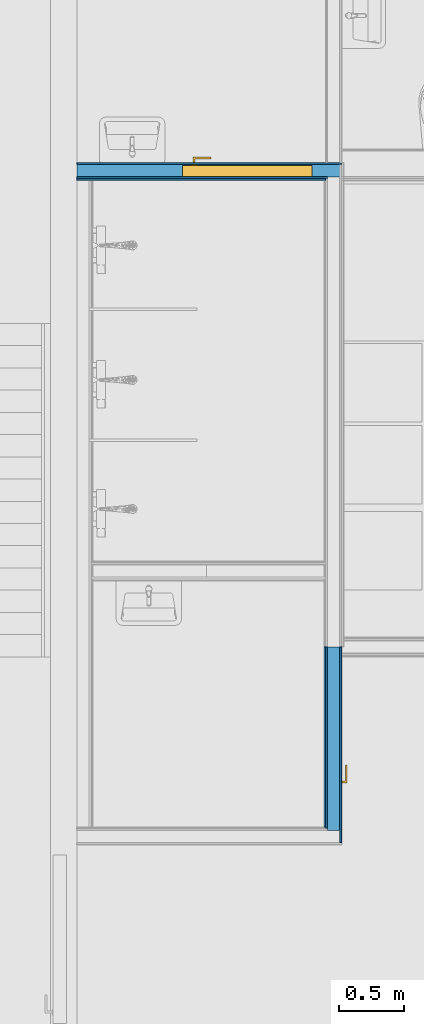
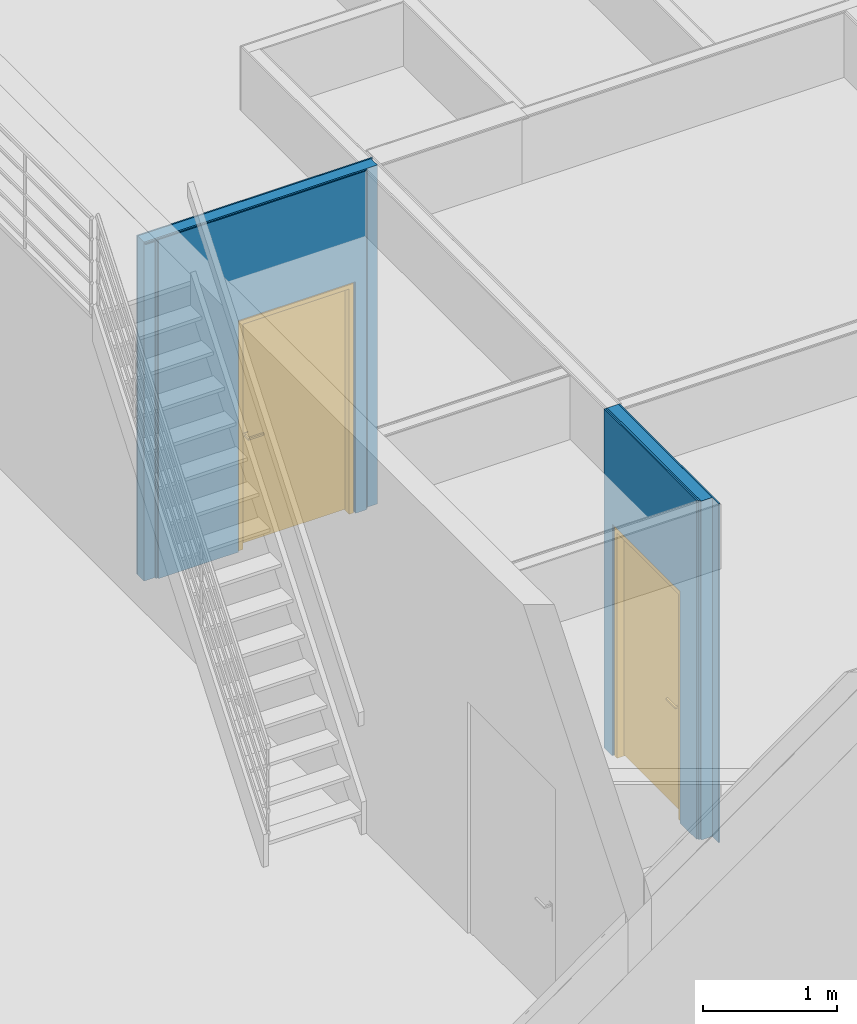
# One storey, part 20 of 67: 8 building element parts, 2 doors, 2 openings, 2 elements without a shape of their own.
"""IFC4 building model written with IfcOpenShell, lengths in millimetres."""

from ifc_helpers import new_model, entity, si_unit, converted_unit, direction, frame, origin, place, context, subcontext, project, spatial, indexed_curve, outline, extrude, polygons, source, transform, mapped, material, constituent, constituent_set, type_object, type_shapes, element, fill, aggregate, save


model = new_model("IFC4")

# Units and contexts
model_context = context("Model", 3, precision=0.01, world=origin(), true_north=direction((0.0, 1.0)))
body_context = subcontext(model_context, "Body", "Model", "MODEL_VIEW")
ifc_project = project(units=[si_unit("LENGTHUNIT", "METRE", prefix="MILLI"), si_unit("AREAUNIT", "SQUARE_METRE"), si_unit("VOLUMEUNIT", "CUBIC_METRE"), converted_unit("PLANEANGLEUNIT", "DEGREE", entity("IfcPlaneAngleMeasure", 0.017453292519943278), si_unit("PLANEANGLEUNIT", "RADIAN"), dimensions=[0, 0, 0, 0, 0, 0, 0])], contexts=[model_context])

# Site, building, storey
site_placement = place(None, origin())
site = spatial("IfcSite", under=ifc_project, at=site_placement, Name="Tomtens navn", CompositionType="ELEMENT")
building_placement = place(site_placement, origin())
building = spatial("IfcBuilding", under=site, at=building_placement, Name="Byggets navn", CompositionType="ELEMENT")
storey_placement = place(building_placement, origin())
storey = spatial("IfcBuildingStorey", under=building, at=storey_placement, Name="Level 01", CompositionType="ELEMENT", Elevation=2.1993652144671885e-25)

# Door
ifc_material_1 = material(Name="Rustfritt Stål", Category="Metal")
ifc_constituent_1 = constituent(ifc_material_1, Name="Rustfritt Stål", Category="Metal", fraction=0.0018055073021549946)
ifc_material_2 = material(Name="Hvit", Category="Paint")
ifc_constituent_2 = constituent(ifc_material_2, Name="Hvit", Category="Paint", fraction=0.998194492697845)
ifc_constituent_set_1 = constituent_set(constituents=[ifc_constituent_1, ifc_constituent_2])
ifc_constituent_3 = constituent(ifc_material_1, Name="Rustfritt Stål", Category="Metal", fraction=0.0009035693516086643)
ifc_constituent_4 = constituent(ifc_material_2, Name="Panel", Category="Paint", fraction=0.4995482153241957)
ifc_constituent_5 = constituent(ifc_material_2, Name="Frame/Mullion", Category="Paint", fraction=0.4995482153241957)
ifc_constituent_set_2 = constituent_set(constituents=[ifc_constituent_3, ifc_constituent_4, ifc_constituent_5])
door_type_1 = type_object("IfcDoorType", Name="Enfløyet:ID05 Komposittdør 10x21M", OperationType="SINGLE_SWING_RIGHT", PredefinedType="DOOR", material=ifc_constituent_set_2)
shared_shape_1 = source(origin(), body_context, "Body", "SweptSolid", [
    extrude(outline(indexed_curve([(-50.83333333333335, -33.33333333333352), (-35.83333333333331, -33.333333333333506), (-35.83333333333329, 9.166666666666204), (86.66666666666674, 9.166666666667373), (86.66666666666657, 24.16666666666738), (-50.8333333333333, 24.166666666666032), (-50.83333333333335, -33.33333333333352)], self_intersect=False)), frame((141.33333333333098, 152.94103942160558, 980.5000000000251)), (0.0, 0.0, 1.0), 14.999999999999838),
    extrude(outline(indexed_curve([(-24.999999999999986, -2.7999999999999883), (25.000000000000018, -2.8000000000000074), (24.999999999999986, 2.7999999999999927), (-24.99999999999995, 2.800000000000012), (-24.999999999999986, -2.7999999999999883)], self_intersect=False)), frame((98.0, 116.80000000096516, 850.9862950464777), z_axis=(0.0, 0.0, 1.0), x_axis=(-1.0, 0.0, 0.0)), (0.0, 0.0, 1.0), 159.01370495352),
    extrude(outline(indexed_curve([(-33.33333333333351, -50.83333333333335), (24.166666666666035, -50.83333333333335), (24.166666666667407, 86.66666666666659), (9.166666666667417, 86.6666666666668), (9.16666666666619, -35.83333333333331), (-33.33333333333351, -35.83333333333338), (-33.33333333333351, -50.83333333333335)], self_intersect=False)), frame((141.33333333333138, 35.058960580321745, 980.5000000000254), z_axis=(0.0, 0.0, 1.0), x_axis=(0.0, -1.0, 0.0)), (0.0, 0.0, 1.0), 14.999999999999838),
    extrude(outline(indexed_curve([(-2.8000000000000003, -25.00000000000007), (2.7999999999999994, -25.00000000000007), (2.800000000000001, 25.0), (-2.8000000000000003, 24.999999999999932), (-2.8000000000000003, -25.00000000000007)], self_intersect=False)), frame((98.0, 71.20000000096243, 850.9862950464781), z_axis=(0.0, 0.0, 1.0), x_axis=(0.0, 1.0, 0.0)), (0.0, 0.0, 1.0), 159.01370495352),
    extrude(outline(indexed_curve([(-20.0, -456.9999999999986), (20.0, -456.9999999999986), (20.0, 456.9999999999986), (-20.0, 456.9999999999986), (-20.0, -456.9999999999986)], self_intersect=False)), frame((505.0, 94.0, 10.0), z_axis=(0.0, 0.0, 1.0), x_axis=(0.0, 1.0, 0.0)), (0.0, 0.0, 1.0), 2042.0),
    extrude(outline(indexed_curve([(-1035.4999999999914, -494.9999999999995), (1054.4999999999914, -494.99999999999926), (1054.4999999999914, 494.99999999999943), (-1035.4999999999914, 494.99999999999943), (-1035.4999999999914, 456.99999999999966), (1016.4999999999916, 456.9999999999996), (1016.4999999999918, -456.9999999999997), (-1035.4999999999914, -456.99999999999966), (-1035.4999999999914, -494.9999999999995)], self_intersect=False)), frame((505.0, 14.0, 1035.4999999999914), z_axis=(0.0, 1.0, 0.0), x_axis=(0.0, 0.0, 1.0)), (0.0, 0.0, 1.0), 99.99999999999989),
])
type_shapes(door_type_1, [shared_shape_1])
wall_1_placement = place(storey_placement, frame((60662.853528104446, 15672.966456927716, 0.0), z_axis=(0.0, 0.0, 1.0), x_axis=(-1.0, 0.0, 0.0)))
opening_1_placement = place(wall_1_placement, frame((1240.0, 67.0, 0.0)))
door_1_placement = place(opening_1_placement, frame((0.0, 0.0, 0.0), z_axis=(0.0, 0.0, 1.0), x_axis=(-1.0, 0.0, 0.0)))
door_1 = element("IfcDoor", 1, at=door_1_placement, inside=storey, type_object=door_type_1, material=ifc_constituent_set_1, Name="Enfløyet:ID05 Komposittdør 10x21M", OverallHeight=2110.000000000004, OverallWidth=1009.9999999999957, PredefinedType="DOOR", context=body_context, shape_type="MappedRepresentation", body=[
    mapped(shared_shape_1, transform((0.0, 0.0, 0.0), scale=1.0)),
])

ifc_constituent_6 = constituent(ifc_material_1, Name="Rustfritt Stål", Category="Metal", fraction=0.0018055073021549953)
ifc_constituent_7 = constituent(ifc_material_2, Name="Hvit", Category="Paint", fraction=0.998194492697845)
ifc_constituent_set_3 = constituent_set(constituents=[ifc_constituent_6, ifc_constituent_7])
ifc_constituent_8 = constituent(ifc_material_1, Name="Rustfritt Stål", Category="Metal", fraction=0.0009035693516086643)
ifc_constituent_9 = constituent(ifc_material_2, Name="Panel", Category="Paint", fraction=0.4995482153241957)
ifc_constituent_10 = constituent(ifc_material_2, Name="Frame/Mullion", Category="Paint", fraction=0.4995482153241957)
ifc_constituent_set_4 = constituent_set(constituents=[ifc_constituent_8, ifc_constituent_9, ifc_constituent_10])
door_type_2 = type_object("IfcDoorType", Name="Enfløyet:ID06 Tredør 10x21M", OperationType="SINGLE_SWING_LEFT", PredefinedType="DOOR", material=ifc_constituent_set_4)
shared_shape_2 = source(origin(), body_context, "Body", "SweptSolid", [
    extrude(outline(indexed_curve([(-33.33333333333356, -50.833333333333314), (24.16666666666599, -50.833333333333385), (24.16666666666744, 86.66666666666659), (9.166666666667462, 86.6666666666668), (9.166666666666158, -35.83333333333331), (-33.33333333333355, -35.83333333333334), (-33.33333333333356, -50.833333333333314)], self_intersect=False)), frame((868.6666666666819, 132.94103942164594, 980.5000000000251), z_axis=(0.0, 0.0, 1.0), x_axis=(0.0, 1.0, 0.0)), (0.0, 0.0, 1.0), 14.999999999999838),
    extrude(outline(indexed_curve([(-2.8000000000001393, -25.000000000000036), (2.799999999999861, -25.000000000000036), (2.8000000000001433, 25.000000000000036), (-2.799999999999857, 24.999999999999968), (-2.8000000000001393, -25.000000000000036)], self_intersect=False)), frame((912.0, 96.8000000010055, 850.9862950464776), z_axis=(0.0, 0.0, 1.0), x_axis=(0.0, -1.0, 0.0)), (0.0, 0.0, 1.0), 159.01370495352),
    extrude(outline(indexed_curve([(-50.83333333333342, -33.33333333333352), (-35.83333333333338, -33.33333333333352), (-35.83333333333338, 9.16666666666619), (86.66666666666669, 9.1666666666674), (86.66666666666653, 24.1666666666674), (-50.83333333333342, 24.16666666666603), (-50.83333333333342, -33.33333333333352)], self_intersect=False)), frame((868.6666666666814, 15.0589605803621, 980.5000000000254), z_axis=(0.0, 0.0, 1.0), x_axis=(-1.0, 0.0, 0.0)), (0.0, 0.0, 1.0), 14.999999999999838),
    extrude(outline(indexed_curve([(-25.0, -2.8000000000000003), (25.0, -2.8000000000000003), (24.999999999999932, 2.7999999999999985), (-25.0, 2.8000000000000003), (-25.0, -2.8000000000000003)], self_intersect=False)), frame((912.0, 51.200000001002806, 850.9862950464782)), (0.0, 0.0, 1.0), 159.01370495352),
    extrude(outline(indexed_curve([(-456.9999999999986, -20.0), (456.9999999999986, -20.0), (456.9999999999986, 20.0), (-456.9999999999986, 20.0), (-456.9999999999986, -20.0)], self_intersect=False)), frame((505.0, 74.00000000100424, 10.0)), (0.0, 0.0, 1.0), 2042.0),
    extrude(outline(indexed_curve([(456.9999999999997, -1035.4999999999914), (494.99999999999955, -1035.4999999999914), (494.99999999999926, 1054.4999999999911), (-494.99999999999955, 1054.4999999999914), (-494.99999999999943, -1035.4999999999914), (-456.99999999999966, -1035.4999999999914), (-456.9999999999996, 1016.4999999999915), (456.9999999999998, 1016.4999999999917), (456.9999999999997, -1035.4999999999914)], self_intersect=False)), frame((505.0, 94.00000000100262, 1035.4999999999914), z_axis=(0.0, -1.0, 0.0), x_axis=(1.0, 0.0, 0.0)), (0.0, 0.0, 1.0), 99.99999999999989),
])
type_shapes(door_type_2, [shared_shape_2])
wall_2_placement = place(storey_placement, frame((60580.85352810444, 12037.216456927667, 0.0), z_axis=(0.0, 0.0, 1.0), x_axis=(0.0, -1.0, 0.0)))
opening_2_placement = place(wall_2_placement, frame((119.74999999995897, -67.0, 0.0)))
door_2_placement = place(opening_2_placement, frame((0.0, 20.0, 0.0)))
door_2 = element("IfcDoor", 2, at=door_2_placement, inside=storey, type_object=door_type_2, material=ifc_constituent_set_3, Name="Enfløyet:ID06 Tredør 10x21M", OverallHeight=2110.000000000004, OverallWidth=1009.9999999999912, PredefinedType="DOOR", context=body_context, shape_type="MappedRepresentation", body=[
    mapped(shared_shape_2, transform((0.0, 0.0, 0.0), scale=1.0)),
])

# Wall, opening
wall_type_1 = type_object("IfcWallType", Name="Basic Wall:IV07 Gips 95 stålstender +15mm kryssfiner+baderomsplater", PredefinedType="STANDARD")
wall_1 = element("IfcWall", 3, at=wall_1_placement, inside=storey, type_object=wall_type_1, Name="Basic Wall:IV07 Gips 95 stålstender +15mm kryssfiner+baderomsplater", PredefinedType="NOTDEFINED")
opening_1 = element("IfcOpeningElement", 4, at=opening_1_placement, cuts=wall_1, Name="Enfløyet:ID05 Komposittdør 10x21M:1", PredefinedType="OPENING", context=body_context, shape_type="SweptSolid", body=[
    extrude(outline(indexed_curve([(0.0, 1009.9999999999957), (0.0, 2.3165105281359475e-29), (2110.000000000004, 2.3165105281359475e-29), (2110.000000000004, 1009.9999999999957), (0.0, 1009.9999999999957)], self_intersect=False)), frame((0.0, 0.0, 0.0), z_axis=(0.0, -1.0, 0.0), x_axis=(0.0, 0.0, 1.0)), (0.0, 0.0, 1.0), 134.0),
])

fill(opening_1, door_1)

# Building element part
ifc_material_3 = material(Name="NO_Kryssfiner", Category="Tre")
building_element_part_1_placement = place(wall_1_placement, frame((2040.0, 56.0, 0.0)))
building_element_part_1 = element("IfcBuildingElementPart", 5, at=building_element_part_1_placement, material=ifc_material_3, Name="NO_Kryssfiner", context=body_context, shape_type="Tessellation", body=[
    polygons([(-800.0000000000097, 3.637978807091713e-12, 7.331217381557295e-26), (-800.0000000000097, 3.637978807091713e-12, 2110.000000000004), (-1809.999999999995, 3.637978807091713e-12, 2110.000000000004), (-1809.999999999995, 3.637978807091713e-12, 7.331217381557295e-26), (-1917.0000000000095, 3.637978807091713e-12, 7.331217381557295e-26), (-1917.0000000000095, 3.637978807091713e-12, 3087.999999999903), (-9.65166665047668e-12, 3.637978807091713e-12, 3087.999999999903), (-9.65166665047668e-12, 3.637978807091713e-12, 3081.346137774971), (-95.00000000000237, 3.637978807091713e-12, 3081.346137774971), (-95.00000000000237, 3.637978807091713e-12, 7.331217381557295e-26), (-1809.999999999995, -15.0, 7.331217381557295e-26), (-1917.0000000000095, -15.0, 7.331217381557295e-26), (-9.653948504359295e-12, -15.0, 3087.999999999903), (-9.653948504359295e-12, -15.0, 3081.346137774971), (-1917.0000000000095, -15.0, 3087.999999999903), (-1809.999999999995, -15.0, 2110.000000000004), (-800.0000000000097, -15.0, 2110.000000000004), (-800.0000000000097, -15.0, 7.331217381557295e-26), (-95.00000000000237, -15.0, -2.8199664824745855e-15), (-95.00000000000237, -15.0, 3081.346137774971)], [[[1, 2, 3, 4, 5, 6, 7, 8, 9, 10]], [[5, 4, 11, 12]], [[7, 13, 14, 8]], [[7, 6, 15, 13]], [[4, 3, 16, 11]], [[3, 2, 17, 16]], [[2, 1, 18, 17]], [[18, 1, 10, 19]], [[12, 11, 16, 17, 18, 19, 20, 14, 13, 15]], [[5, 12, 15, 6]], [[20, 9, 8, 14]], [[9, 20, 19, 10]]], closed=True),
])

ifc_material_4 = material(Name="Stender", Category="Unassigned")
building_element_part_2_placement = place(wall_1_placement, frame((2040.0, 41.0, 0.0)))
building_element_part_2 = element("IfcBuildingElementPart", 6, at=building_element_part_2_placement, material=ifc_material_4, Name="Stender", context=body_context, shape_type="Tessellation", body=[
    polygons([(-800.0000000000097, -95.00000000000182, 7.331217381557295e-26), (-9.668400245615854e-12, -95.00000000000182, 7.331217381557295e-26), (-9.668400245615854e-12, -95.00000000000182, 3087.999999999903), (-2011.999999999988, -95.00000000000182, 3087.999999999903), (-2011.999999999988, -95.00000000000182, 7.331217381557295e-26), (-1809.9999999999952, -95.00000000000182, 7.331217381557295e-26), (-1809.9999999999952, -95.00000000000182, 2110.000000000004), (-800.0000000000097, -95.00000000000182, 2110.000000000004), (-2011.9999999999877, 0.0, 7.331217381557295e-26), (-1809.999999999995, 0.0, 7.331217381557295e-26), (-9.653948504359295e-12, 0.0, 7.331217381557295e-26), (-9.653948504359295e-12, 0.0, 3087.999999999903), (-2011.9999999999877, 0.0, 3087.999999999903), (-1809.999999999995, 0.0, 2110.000000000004), (-800.0000000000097, 0.0, 2110.000000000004), (-800.0000000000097, 0.0, 7.331217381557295e-26)], [[[1, 2, 3, 4, 5, 6, 7, 8]], [[5, 9, 10, 6]], [[2, 11, 12, 3]], [[3, 12, 13, 4]], [[6, 10, 14, 7]], [[7, 14, 15, 8]], [[16, 1, 8, 15]], [[11, 2, 1, 16]], [[11, 16, 15, 14, 10, 9, 13, 12]], [[9, 5, 4, 13]]], closed=True),
])

ifc_material_5 = material(Name="Gipsplater", Category="NOR ^ Gips")
building_element_part_3_placement = place(wall_1_placement, frame((2040.0, -54.0, 0.0)))
building_element_part_3 = element("IfcBuildingElementPart", 7, at=building_element_part_3_placement, material=ifc_material_5, Name="Gipsplater", context=body_context, shape_type="Tessellation", body=[
    polygons([(-9.668400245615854e-12, -1.8189894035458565e-12, 7.331217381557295e-26), (-800.0000000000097, -1.8189894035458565e-12, 7.331217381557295e-26), (-800.0000000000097, -1.8189894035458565e-12, 2110.000000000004), (-1809.9999999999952, -1.8189894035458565e-12, 2110.000000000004), (-1809.9999999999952, -1.8189894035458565e-12, 7.331217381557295e-26), (-2026.9999999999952, -1.8189894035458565e-12, 7.331217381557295e-26), (-2026.9999999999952, -1.8189894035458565e-12, 3087.999999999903), (-9.668400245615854e-12, -1.8189894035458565e-12, 3087.999999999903), (-2024.9999999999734, -13.0, 2.1993652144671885e-25), (-2026.9999999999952, -13.0, 2.1993652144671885e-25), (-1809.9999999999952, -13.0, 2.1993652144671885e-25), (-1903.9999999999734, -13.0, 2.1993652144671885e-25), (-9.670377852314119e-12, -13.0, 3087.999999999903), (-9.670377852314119e-12, -13.0, 2.1993652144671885e-25), (-2026.9999999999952, -13.0, 3087.999999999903), (-1809.9999999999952, -13.0, 2110.000000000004), (-800.0000000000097, -13.0, 2110.000000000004), (-800.0000000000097, -13.0, 2.1993652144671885e-25)], [[[1, 2, 3, 4, 5, 6, 7, 8]], [[9, 10, 6, 5, 11, 12]], [[13, 14, 1, 8]], [[15, 13, 8, 7]], [[16, 11, 5, 4]], [[17, 16, 4, 3]], [[18, 17, 3, 2]], [[14, 18, 2, 1]], [[14, 13, 15, 10, 9, 12, 11, 16, 17, 18]], [[10, 15, 7, 6]]], closed=True),
])

ifc_material_6 = material(Name="NO_Baderomsplater", Category="Tre")
building_element_part_4_placement = place(wall_1_placement, frame((2040.0, 67.0, 0.0)))
building_element_part_4 = element("IfcBuildingElementPart", 8, at=building_element_part_4_placement, material=ifc_material_6, Name="NO_Baderomsplater", context=body_context, shape_type="Tessellation", body=[
    polygons([(-9.65166665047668e-12, -10.999999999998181, 3087.999999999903), (-1901.999999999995, -10.999999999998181, 3087.999999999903), (-1901.999999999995, -10.999999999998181, 7.331217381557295e-26), (-1809.999999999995, -10.999999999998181, 7.331217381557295e-26), (-1809.999999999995, -10.999999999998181, 2110.000000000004), (-800.0000000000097, -10.999999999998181, 2110.000000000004), (-800.0000000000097, -10.999999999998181, 7.331217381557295e-26), (-110.00000000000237, -10.999999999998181, 7.331217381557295e-26), (-110.00000000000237, -10.999999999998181, 3081.346137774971), (-9.65166665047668e-12, -10.999999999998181, 3081.346137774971), (-2.4201908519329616e-11, 0.0, 3087.999999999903), (-2.4201908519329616e-11, 0.0, 3081.346137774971), (-110.00000000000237, 0.0, 3081.346137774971), (-110.00000000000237, 0.0, 2.1993652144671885e-25), (-121.00000000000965, 0.0, 2.1993652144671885e-25), (-800.0000000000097, 0.0, 2.1993652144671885e-25), (-800.0000000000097, 0.0, 2110.000000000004), (-1809.999999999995, -1.8189894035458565e-12, 2110.000000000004), (-1809.999999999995, -1.8189894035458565e-12, 2.1993652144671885e-25), (-1890.999999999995, -1.8189894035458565e-12, 2.1993652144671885e-25), (-1901.999999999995, -1.8189894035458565e-12, 2.1993652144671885e-25), (-1901.999999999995, -1.8189894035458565e-12, 3087.999999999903), (-1890.999999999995, -1.8189894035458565e-12, 3087.999999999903)], [[[1, 2, 3, 4, 5, 6, 7, 8, 9, 10]], [[11, 12, 13, 14, 15, 16, 17, 18, 19, 20, 21, 22, 23]], [[4, 3, 21, 20, 19]], [[12, 11, 1, 10]], [[2, 1, 11, 23, 22]], [[5, 4, 19, 18]], [[6, 5, 18, 17]], [[7, 6, 17, 16]], [[16, 15, 14, 8, 7]], [[22, 21, 3, 2]], [[13, 9, 8, 14]], [[9, 13, 12, 10]]], closed=True),
])

aggregate(wall_1, [building_element_part_1, building_element_part_2, building_element_part_3, building_element_part_4])

# Wall, opening
wall_type_2 = type_object("IfcWallType", Name="Basic Wall:IV08 Forestia 95 stålstender +15mm kryssfiner+baderomsplater 2", PredefinedType="STANDARD")
wall_2 = element("IfcWall", 9, at=wall_2_placement, inside=storey, type_object=wall_type_2, Name="Basic Wall:IV08 Forestia 95 stålstender +15mm kryssfiner+baderomsplater 2", PredefinedType="NOTDEFINED")
opening_2 = element("IfcOpeningElement", 10, at=opening_2_placement, cuts=wall_2, Name="Enfløyet:ID06 Tredør 10x21M:1", PredefinedType="OPENING", context=body_context, shape_type="SweptSolid", body=[
    extrude(outline(indexed_curve([(0.0, -1.8633834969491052e-27), (2110.000000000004, -1.8633834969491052e-27), (2110.000000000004, 1009.9999999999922), (0.0, 1009.9999999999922), (0.0, -1.8633834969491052e-27)], self_intersect=False)), frame((0.0, 0.0, 0.0), z_axis=(0.0, 1.0, 0.0), x_axis=(0.0, 0.0, 1.0)), (0.0, 0.0, 1.0), 134.0),
])

fill(opening_2, door_2)

# Building element part
building_element_part_5_placement = place(wall_2_placement, frame((1387.7499999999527, -56.0, 0.0)))
building_element_part_5 = element("IfcBuildingElementPart", 11, at=building_element_part_5_placement, material=ifc_material_3, Name="NO_Kryssfiner", context=body_context, shape_type="Tessellation", body=[
    polygons([(-1387.7499999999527, 5.477919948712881e-12, 7.331217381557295e-26), (-1267.9999999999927, 5.640574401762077e-12, 7.331217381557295e-26), (-1267.9999999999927, 5.640574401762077e-12, 2110.000000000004), (-258.0000000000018, 7.012440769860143e-12, 2110.000000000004), (-258.0000000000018, 7.012440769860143e-12, 7.331217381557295e-26), (0.0, 7.362877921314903e-12, 7.331217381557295e-26), (0.0, 7.362877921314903e-12, 3079.9999999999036), (0.0, 7.362877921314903e-12, 3087.999999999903), (-1387.7499999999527, 5.477919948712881e-12, 3087.999999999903), (-1387.7499999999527, 5.477919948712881e-12, 3079.9999999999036), (-1387.7499999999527, 14.999999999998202, 7.331217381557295e-26), (-1267.9999999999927, 14.999999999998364, 7.331217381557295e-26), (-1387.7499999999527, 14.999999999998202, 3087.999999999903), (-1387.7499999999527, 14.999999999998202, 3079.9999999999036), (-258.0000000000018, 14.999999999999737, 7.331217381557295e-26), (0.0, 15.000000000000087, 7.331217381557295e-26), (-258.0000000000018, 14.999999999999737, 2110.000000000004), (-1267.9999999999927, 14.999999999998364, 2110.000000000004), (0.0, 15.000000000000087, 3087.999999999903), (0.0, 15.000000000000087, 3079.9999999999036)], [[[1, 2, 3, 4, 5, 6, 7, 8, 9, 10]], [[2, 1, 11, 12]], [[1, 10, 9, 13, 14, 11]], [[6, 5, 15, 16]], [[5, 4, 17, 15]], [[4, 3, 18, 17]], [[3, 2, 12, 18]], [[12, 11, 14, 13, 19, 20, 16, 15, 17, 18]], [[6, 16, 20, 19, 8, 7]], [[9, 8, 19, 13]]], closed=True),
])

building_element_part_6_placement = place(wall_2_placement, frame((1402.7499999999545, -41.0, 0.0)))
building_element_part_6 = element("IfcBuildingElementPart", 12, at=building_element_part_6_placement, material=ifc_material_4, Name="Stender", context=body_context, shape_type="Tessellation", body=[
    polygons([(-1282.9999999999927, 94.99999999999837, 7.331217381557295e-26), (-1402.7499999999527, 94.9999999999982, 7.331217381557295e-26), (-1402.7499999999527, 94.9999999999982, 3079.9999999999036), (-1402.7499999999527, 94.9999999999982, 3087.999999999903), (1.8189894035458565e-12, 95.00000000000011, 3087.999999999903), (1.8189894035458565e-12, 95.00000000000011, 3079.9999999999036), (1.8189894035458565e-12, 95.00000000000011, 7.331217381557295e-26), (-273.0000000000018, 94.99999999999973, 7.331217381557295e-26), (-273.0000000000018, 94.99999999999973, 2110.000000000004), (-1282.9999999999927, 94.99999999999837, 2110.000000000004), (-1282.9999999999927, -1.6353832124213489e-12, 7.331217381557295e-26), (-1402.7499999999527, -1.798037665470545e-12, 7.331217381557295e-26), (-1402.7499999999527, -1.798037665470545e-12, 3079.999999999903), (-1402.7499999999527, -1.798037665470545e-12, 3087.999999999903), (1.8189894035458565e-12, 1.0729456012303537e-13, 7.331217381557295e-26), (-273.0000000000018, -2.635168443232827e-13, 7.331217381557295e-26), (-273.0000000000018, -2.635168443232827e-13, 2110.000000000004), (-1282.9999999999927, -1.6353832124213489e-12, 2110.000000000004), (1.8189894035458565e-12, 1.0729456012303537e-13, 3079.9999999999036), (1.8189894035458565e-12, 1.0729456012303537e-13, 3087.999999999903)], [[[1, 2, 3, 4, 5, 6, 7, 8, 9, 10]], [[2, 1, 11, 12]], [[3, 2, 12, 13, 14, 4]], [[8, 7, 15, 16]], [[9, 8, 16, 17]], [[10, 9, 17, 18]], [[1, 10, 18, 11]], [[12, 11, 18, 17, 16, 15, 19, 20, 14, 13]], [[15, 7, 6, 5, 20, 19]], [[5, 4, 14, 20]]], closed=True),
])

ifc_material_7 = material(Name="NO_platekledning forestia", Category="Tre")
building_element_part_7_placement = place(wall_2_placement, frame((1497.7499999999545, 54.0, 0.0)))
building_element_part_7 = element("IfcBuildingElementPart", 13, at=building_element_part_7_placement, material=ifc_material_7, Name="NO_platekledning forestia", context=body_context, shape_type="Tessellation", body=[
    polygons([(-1497.7499999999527, 1.2753877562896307e-11, 7.331217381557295e-26), (-1377.9999999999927, 1.2916532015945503e-11, 7.331217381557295e-26), (-1377.9999999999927, 1.2916532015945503e-11, 2110.000000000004), (-368.0000000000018, 1.4288398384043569e-11, 2110.000000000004), (-368.0000000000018, 1.4288398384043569e-11, 7.331217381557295e-26), (1.8189894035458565e-12, 1.4788246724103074e-11, 7.331217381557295e-26), (1.8189894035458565e-12, 1.4788246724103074e-11, 3079.9999999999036), (1.8189894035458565e-12, 1.4788246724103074e-11, 3087.999999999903), (-1497.7499999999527, 1.2753877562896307e-11, 3087.999999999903), (-1497.7499999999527, 1.2753877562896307e-11, 3079.9999999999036), (-1497.7499999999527, 13.000000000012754, 1.466243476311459e-25), (-1423.2499999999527, 13.000000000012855, 2.1993652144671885e-25), (-1377.9999999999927, 13.000000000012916, 2.1993652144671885e-25), (-1497.7499999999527, 13.000000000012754, 3087.999999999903), (-1497.7499999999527, 13.000000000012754, 3079.9999999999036), (-368.0000000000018, 13.000000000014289, 2.1993652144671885e-25), (1.8189894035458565e-12, 13.000000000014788, 2.1993652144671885e-25), (-368.0000000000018, 13.000000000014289, 2110.000000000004), (-1377.9999999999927, 13.000000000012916, 2110.000000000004), (1.8189894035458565e-12, 13.000000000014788, 3087.999999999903), (1.8189894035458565e-12, 13.000000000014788, 3079.9999999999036)], [[[1, 2, 3, 4, 5, 6, 7, 8, 9, 10]], [[2, 1, 11, 12, 13]], [[1, 10, 9, 14, 15, 11]], [[6, 5, 16, 17]], [[5, 4, 18, 16]], [[4, 3, 19, 18]], [[3, 2, 13, 19]], [[13, 12, 11, 15, 14, 20, 21, 17, 16, 18, 19]], [[17, 21, 20, 8, 7, 6]], [[9, 8, 20, 14]]], closed=True),
])

building_element_part_8_placement = place(wall_2_placement, frame((1376.749999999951, -67.0, 0.0)))
building_element_part_8 = element("IfcBuildingElementPart", 14, at=building_element_part_8_placement, material=ifc_material_6, Name="NO_Baderomsplater", context=body_context, shape_type="Tessellation", body=[
    polygons([(-1256.999999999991, 11.000000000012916, 7.331217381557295e-26), (-1376.749999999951, 11.000000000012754, 7.331217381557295e-26), (-1376.749999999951, 11.000000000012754, 3079.9999999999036), (-1376.749999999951, 11.000000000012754, 3087.999999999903), (1.8189894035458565e-12, 11.000000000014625, 3087.999999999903), (1.8189894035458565e-12, 11.000000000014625, 3079.9999999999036), (1.8189894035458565e-12, 11.000000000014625, 7.331217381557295e-26), (-247.0, 11.000000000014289, 7.331217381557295e-26), (-247.0, 11.000000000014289, 2110.000000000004), (-1256.999999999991, 11.000000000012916, 2110.000000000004), (-1256.999999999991, 5.640574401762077e-12, 2.1993652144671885e-25), (-1376.749999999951, 5.477919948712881e-12, 1.466243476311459e-25), (-1376.749999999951, 5.477919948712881e-12, 3079.9999999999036), (-1376.749999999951, 5.477919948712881e-12, 3087.999999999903), (1.8189894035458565e-12, 7.347936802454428e-12, 3087.999999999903), (1.8189894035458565e-12, 7.347936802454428e-12, 3079.9999999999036), (1.8189894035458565e-12, 7.347936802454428e-12, 2.1993652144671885e-25), (-247.0, 7.012440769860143e-12, 2.1993652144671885e-25), (-247.0, 7.012440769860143e-12, 2110.000000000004), (-1256.999999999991, 5.640574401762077e-12, 2110.000000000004)], [[[1, 2, 3, 4, 5, 6, 7, 8, 9, 10]], [[2, 1, 11, 12]], [[3, 2, 12, 13, 14, 4]], [[7, 6, 5, 15, 16, 17]], [[8, 7, 17, 18]], [[9, 8, 18, 19]], [[10, 9, 19, 20]], [[1, 10, 20, 11]], [[17, 16, 15, 14, 13, 12, 11, 20, 19, 18]], [[5, 4, 14, 15]]], closed=True),
])

aggregate(wall_2, [building_element_part_5, building_element_part_6, building_element_part_7, building_element_part_8])

save(model, "model.ifc")
